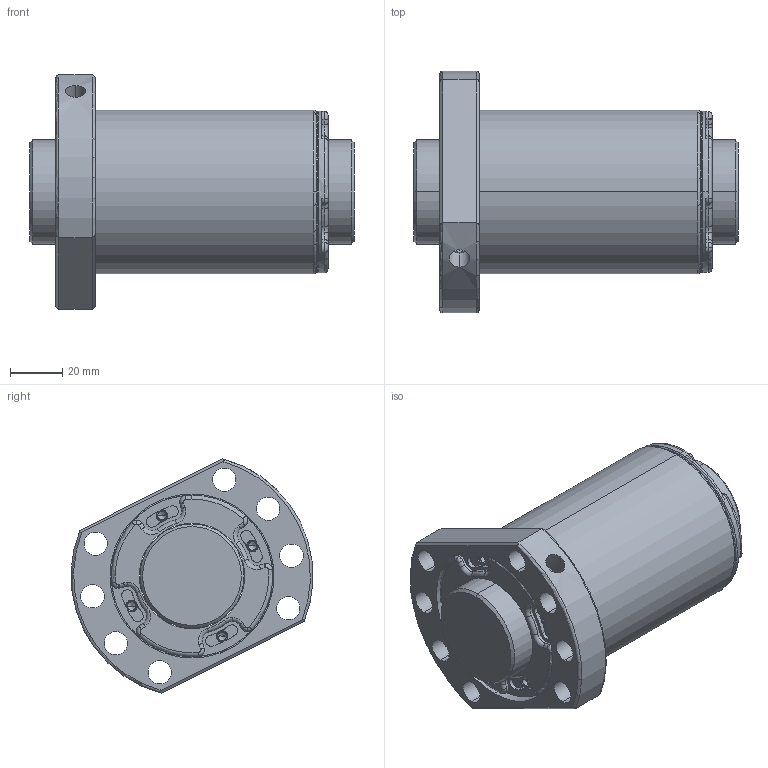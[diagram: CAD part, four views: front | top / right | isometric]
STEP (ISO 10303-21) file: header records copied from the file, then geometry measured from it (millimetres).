
FILE_DESCRIPTION (( 'STEP AP203' ), '1' );
FILE_NAME ('SFSR04040A1D-C.STEP', '2020-06-17T01:52:08', ( '' ), ( '' ), 'SwSTEP 2.0', 'SolidWorks 2013', '' );
FILE_SCHEMA (( 'CONFIG_CONTROL_DESIGN' ));
Length unit declared in the file: millimetre
Products named in the file (1): SFSR04040A1D-C
Bounding box: 124.5 x 92.89 x 89.97 mm (x, y, z)
Volume: 364972 mm3; surface area: 68623.8 mm2
Topology: 2 solids, 2 shells, 378 faces, 975 edges, 604 vertices
Faces by surface type: cylinder 182, plane 83, torus 75, cone 36, bspline 2
Entity records: 14853 total; most frequent: CARTESIAN_POINT 5295, DIRECTION 2201, ORIENTED_EDGE 1918, EDGE_CURVE 959, AXIS2_PLACEMENT_3D 956, VERTEX_POINT 604, CIRCLE 579, EDGE_LOOP 419
